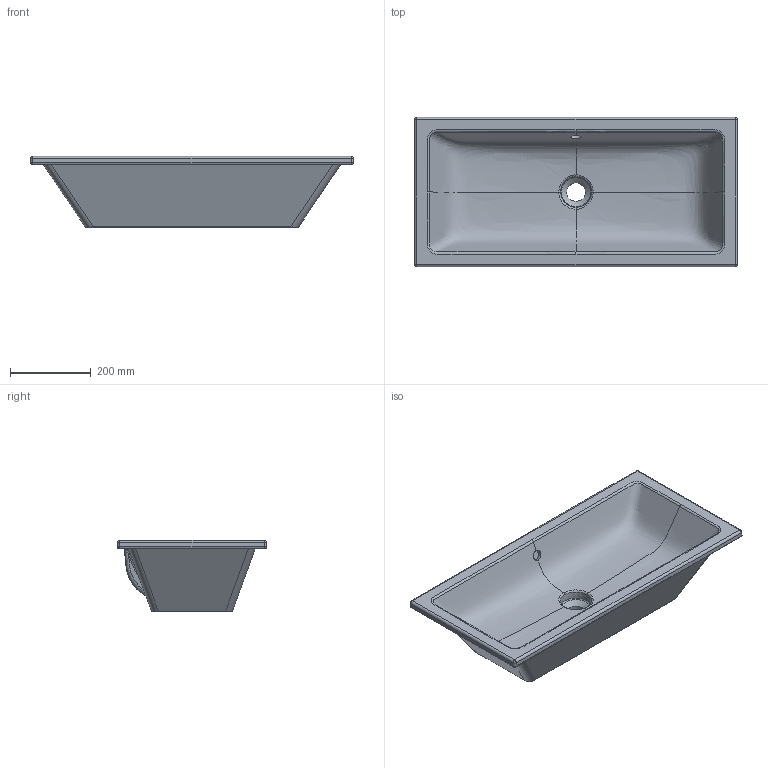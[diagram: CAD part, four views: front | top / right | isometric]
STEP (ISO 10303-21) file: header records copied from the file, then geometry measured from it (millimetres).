
FILE_DESCRIPTION (( 'STEP AP203' ), '1' );
FILE_NAME ('DULT08037T00.STEP', '2024-08-26T08:23:33', ( '' ), ( '' ), 'SwSTEP 2.0', 'SolidWorks 2023', '' );
FILE_SCHEMA (( 'CONFIG_CONTROL_DESIGN' ));
Length unit declared in the file: millimetre
Products named in the file (1): DULT08037T00
Bounding box: 800 x 370 x 176.5 mm (x, y, z)
Volume: 10651506.3 mm3; surface area: 1023180.9 mm2
Topology: 1 solids, 1 shells, 354 faces, 832 edges, 469 vertices
Faces by surface type: bspline 163, cylinder 101, plane 44, torus 22, sphere 18, cone 6
Full cylindrical faces by diameter (mm): 25 x1
Entity records: 64094 total; most frequent: CARTESIAN_POINT 57200, ORIENTED_EDGE 1624, DIRECTION 1142, EDGE_CURVE 812, AXIS2_PLACEMENT_3D 469, VERTEX_POINT 467, EDGE_LOOP 363, FACE_OUTER_BOUND 356
